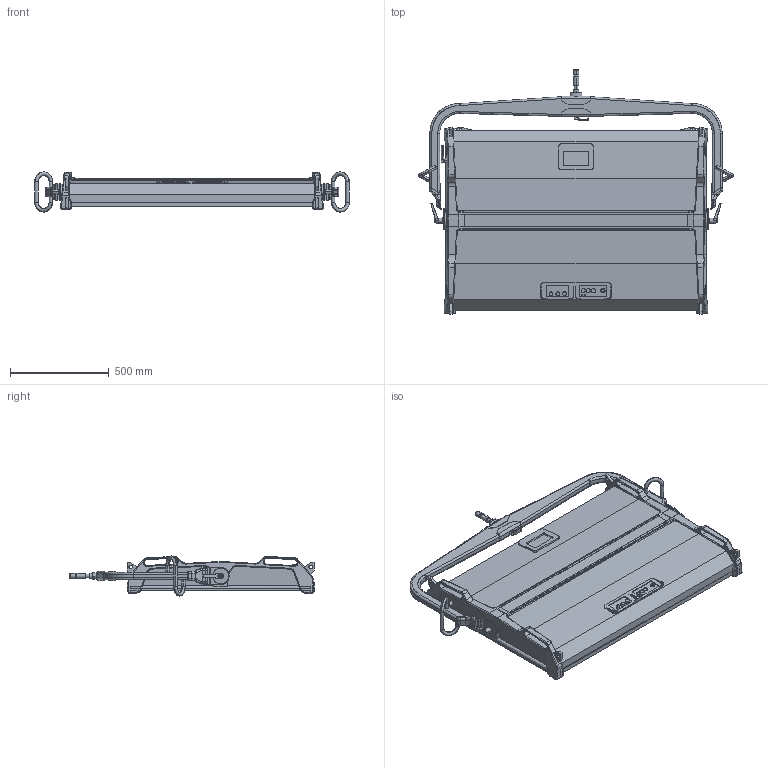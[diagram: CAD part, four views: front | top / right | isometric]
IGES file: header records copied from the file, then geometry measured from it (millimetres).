
Start section: SolidWorks IGES file using analytic representation for surfaces
Global section: file name: L:\30083\Odin - vereinfachtes Modell\Export\S360-C_man_3D.IGS; native system: SolidWorks 2016; preprocessor: SolidWorks 2016; author: huttner; date: 171115.130707; units: millimetre
Bounding box: 1593.45 x 1236.9 x 202.9 mm (x, y, z)
Surface area: 3698963.5 mm2 (no closed solid volume)
Topology: 0 solids, 0 shells, 1018 faces, 11342 edges, 11331 vertices
Faces by surface type: bspline 596, revolution 422
